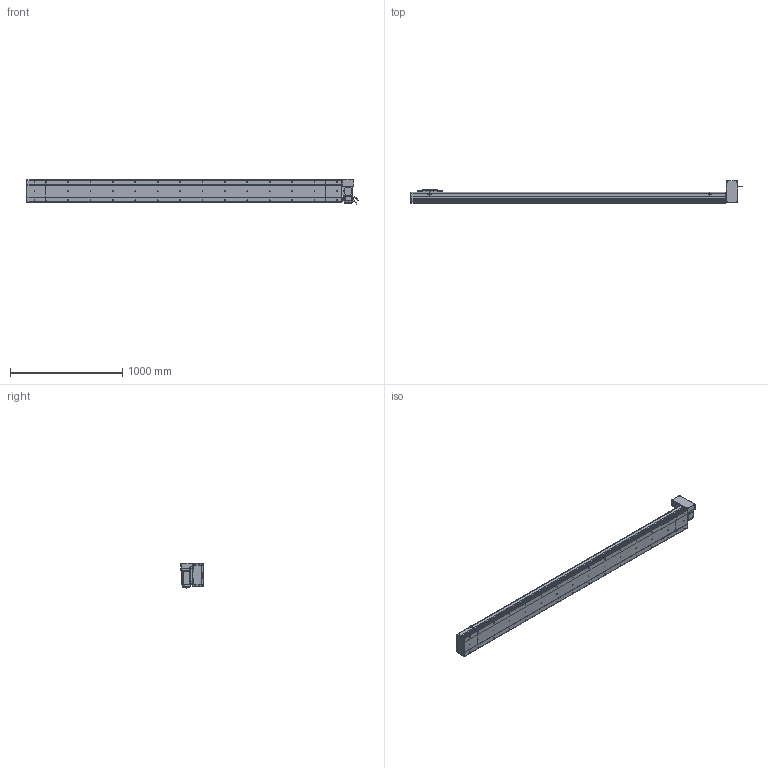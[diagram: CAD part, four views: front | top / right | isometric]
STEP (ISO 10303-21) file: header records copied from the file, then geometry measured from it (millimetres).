
FILE_DESCRIPTION (( 'STEP AP214' ), '1' );
FILE_NAME ('D20 CBH LT S2500.STEP', '2010-06-30T10:17:32', ( 'Conseil Régional Haute-Normandie' ), ( 'Conseil Régional Haute-Normandie' ), 'SwSTEP 2.0', 'SolidWorks 2010', '' );
FILE_SCHEMA (( 'AUTOMOTIVE_DESIGN' ));
Length unit declared in the file: millimetre
Products named in the file (31): Conecteur2_Default; Tail D20+100_Default; Chariot D20_Default; Corp D20 S2500_Default; Cache Support Moteur LT_Default; vis M5 L47_Default; vis M5 L30_Default; Glissiere_Default; Couvercle S2500_Default; Corp S2500_Default; Support Chariot D20_Default; ecrou_Default; Conecteur_Default; Corp Tail D20+100_Default; Plaque De Serrage D20_Default; vis M5 L15_Default; Couvercle_Default; Plaque de Bout Tail D20_Default; Plaque De Serrage D20 LT_Default; Plaque de Bout Head D20 LT_Default; codeur 90BLDC125-640; corps 90BLDC125A-640; avant 90BLDC125A-640; Support moteur LT_Default; Rondelle Cache D20 LT_Default; Moteur motionking 90BLDC125A-640; Corp Tail D20 LT_Default; Head LT_Default; Couvercle LT_Default; D20 CBH LT S2500
Assembly tree (66 placements, depth 4):
  D20 CBH LT S2500
    Corp D20 S2500_Default
      Couvercle S2500_Default
      Corp S2500_Default
    Chariot D20_Default
      vis M5 L15_Default  x8
      Support Chariot D20_Default
      Glissiere_Default
      Chariot D20_Default
    Head LT_Default
      ecrou_Default  x4
      Moteur motionking 90BLDC125A-640
        avant 90BLDC125A-640
        Conecteur2_Default
        codeur 90BLDC125-640
        Conecteur_Default
        corps 90BLDC125A-640
      Plaque De Serrage D20 LT_Default
      vis M5 L30_Default  x4
      Couvercle LT_Default
      vis M5 L15_Default  x12
      Rondelle Cache D20 LT_Default  x3
      Corp Tail D20 LT_Default
      vis M5 L47_Default  x4
      Support moteur LT_Default
      Plaque de Bout Head D20 LT_Default
      Cache Support Moteur LT_Default
    Tail D20+100_Default
      vis M5 L15_Default  x6
      Corp Tail D20+100_Default
      Couvercle_Default
      Plaque de Bout Tail D20_Default
      Plaque De Serrage D20_Default
Bounding box: 2963.45 x 202.5 x 229.7 mm (x, y, z)
Volume: 20005455.7 mm3; surface area: 3888356 mm2
Topology: 103 solids, 103 shells, 3813 faces, 9548 edges, 6208 vertices
Faces by surface type: plane 2110, bspline 806, cylinder 734, torus 91, cone 68, sphere 4
Entity records: 161758 total; most frequent: CARTESIAN_POINT 83413, ORIENTED_EDGE 15564, DIRECTION 11832, EDGE_CURVE 7782, VERTEX_POINT 5152, LINE 4982, VECTOR 4982, AXIS2_PLACEMENT_3D 3425
